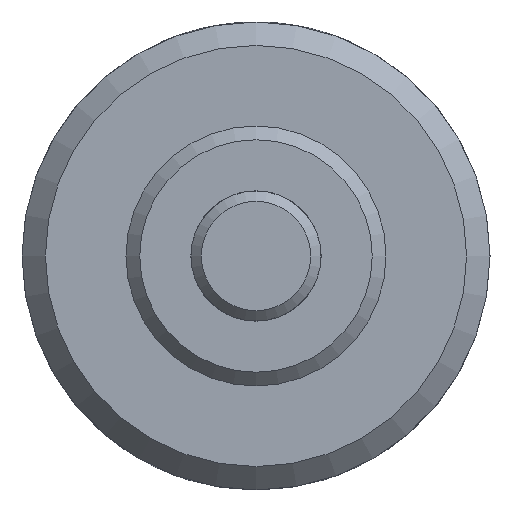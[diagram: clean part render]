
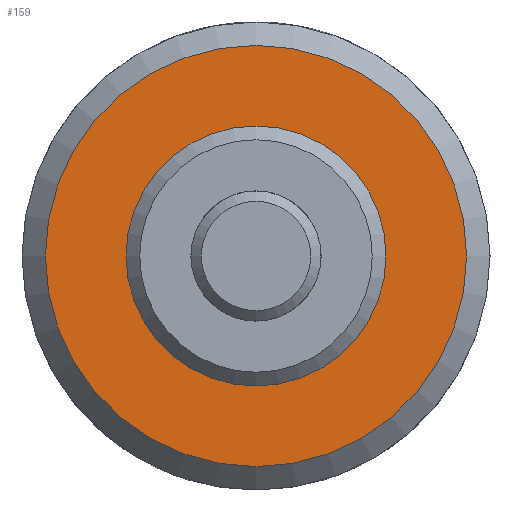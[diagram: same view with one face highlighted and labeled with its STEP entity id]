
A CAD part, left-side view. The second image highlights one B-rep face of the part: STEP entity #159.
In plain terms, the highlighted planar face has unit normal (-1, 0, 0).
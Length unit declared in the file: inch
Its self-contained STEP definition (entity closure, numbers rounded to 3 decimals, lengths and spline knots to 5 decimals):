
#159 = ADVANCED_FACE( '', ( #328, #329 ), #330, .F. );
#328 = FACE_OUTER_BOUND( '', #526, .T. );
#329 = FACE_BOUND( '', #527, .T. );
#330 = PLANE( '', #528 );
#526 = EDGE_LOOP( '', ( #776 ) );
#527 = EDGE_LOOP( '', ( #777 ) );
#528 = AXIS2_PLACEMENT_3D( '', #778, #779, #780 );
#776 = ORIENTED_EDGE( '', *, *, #1059, .F. );
#777 = ORIENTED_EDGE( '', *, *, #1060, .T. );
#778 = CARTESIAN_POINT( '', ( 0.5, 0.312, 0. ) );
#779 = DIRECTION( '', ( 1., 0., 0. ) );
#780 = DIRECTION( '', ( 0., 0., -1. ) );
#1059 = EDGE_CURVE( '', #1225, #1225, #1226, .T. );
#1060 = EDGE_CURVE( '', #1227, #1227, #1228, .T. );
#1225 = VERTEX_POINT( '', #1459 );
#1226 = CIRCLE( '', #1460, 0.50625 );
#1227 = VERTEX_POINT( '', #1461 );
#1228 = CIRCLE( '', #1462, 0.312 );
#1459 = CARTESIAN_POINT( '', ( 0.5, 0., -0.50625 ) );
#1460 = AXIS2_PLACEMENT_3D( '', #1691, #1692, #1693 );
#1461 = CARTESIAN_POINT( '', ( 0.5, 0., -0.312 ) );
#1462 = AXIS2_PLACEMENT_3D( '', #1694, #1695, #1696 );
#1691 = CARTESIAN_POINT( '', ( 0.5, 0., 0. ) );
#1692 = DIRECTION( '', ( 1., 0., 0. ) );
#1693 = DIRECTION( '', ( 0., 0., -1. ) );
#1694 = CARTESIAN_POINT( '', ( 0.5, 0., 0. ) );
#1695 = DIRECTION( '', ( 1., 0., 0. ) );
#1696 = DIRECTION( '', ( 0., 0., -1. ) );
